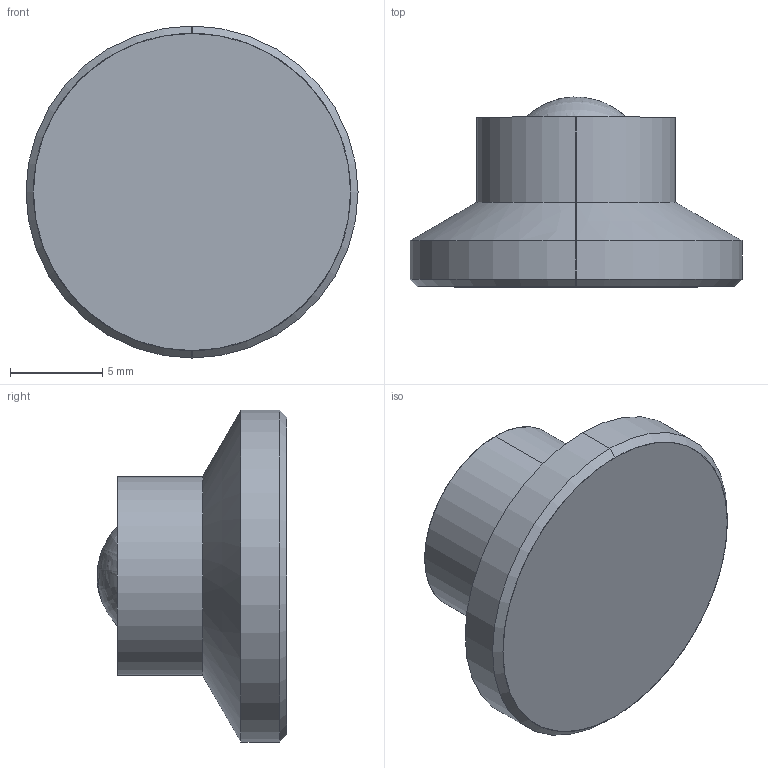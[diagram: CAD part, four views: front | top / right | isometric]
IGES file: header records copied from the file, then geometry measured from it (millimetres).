
Start section: SolidWorks IGES file using analytic representation for surfaces
Global section: file name: C:\Documents and Settings\IanO.IANOHOME\My Documents\Wix and Auto CAD Work\CAD Models\Parametric Models\Wix Models\34530\34530_IGES\34530.W0018.igs; native system: SolidWorks 2009; preprocessor: SolidWorks 2009; author: IanO; date: 110803.110634; units: millimetre
Bounding box: 18 x 10.3 x 18 mm (x, y, z)
Surface area: 1049.5 mm2 (no closed solid volume)
Topology: 0 solids, 0 shells, 14 faces, 180 edges, 176 vertices
Faces by surface type: revolution 12, bspline 2
